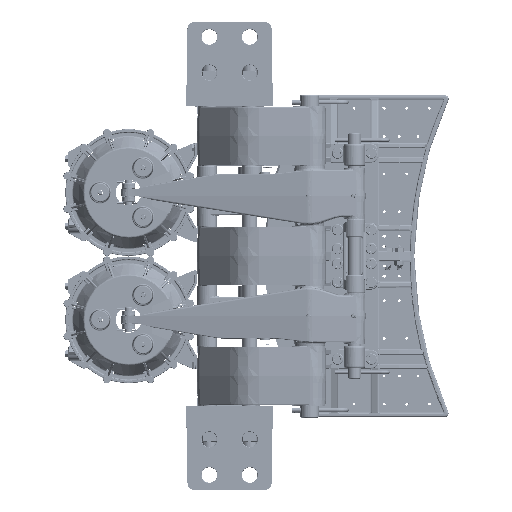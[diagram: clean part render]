
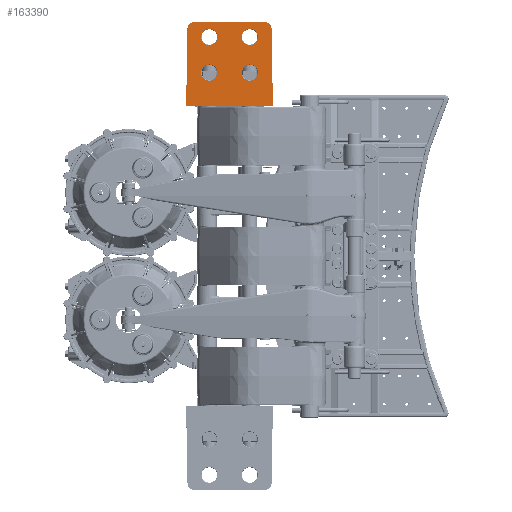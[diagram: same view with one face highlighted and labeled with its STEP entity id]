
A CAD part, top view. The second image highlights one B-rep face of the part: STEP entity #163390.
In plain terms, the highlighted planar face has unit normal (0, 0, 1).
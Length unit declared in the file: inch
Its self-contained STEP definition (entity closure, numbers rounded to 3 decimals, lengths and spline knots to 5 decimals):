
#744 = VECTOR ( 'NONE', #77186, 39.37008 ) ;
#6266 = CARTESIAN_POINT ( 'NONE',  ( -0.98978, 12.79062, 8. ) ) ;
#7405 = ORIENTED_EDGE ( 'NONE', *, *, #299672, .F. ) ;
#9871 = CIRCLE ( 'NONE', #355070, 0.46411 ) ;
#18362 = ORIENTED_EDGE ( 'NONE', *, *, #394919, .T. ) ;
#21302 = VECTOR ( 'NONE', #120166, 39.37008 ) ;
#30032 = CIRCLE ( 'NONE', #367365, 0.54063 ) ;
#31049 = DIRECTION ( 'NONE',  ( -1., 0., 0. ) ) ;
#37381 = DIRECTION ( 'NONE',  ( 0., 1., 0. ) ) ;
#39445 = CARTESIAN_POINT ( 'NONE',  ( 0.00328, 15.625, 8. ) ) ;
#46920 = CIRCLE ( 'NONE', #334765, 0.54063 ) ;
#47461 = VERTEX_POINT ( 'NONE', #279540 ) ;
#54345 = PLANE ( 'NONE',  #403863 ) ;
#57419 = CARTESIAN_POINT ( 'NONE',  ( 0.55973, 10., 8. ) ) ;
#61886 = ORIENTED_EDGE ( 'NONE', *, *, #312333, .F. ) ;
#64780 = DIRECTION ( 'NONE',  ( 0., 1., 0. ) ) ;
#67755 = VECTOR ( 'NONE', #31049, 39.37008 ) ;
#68885 = ORIENTED_EDGE ( 'NONE', *, *, #270783, .F. ) ;
#70743 = CIRCLE ( 'NONE', #103086, 0.46411 ) ;
#74223 = CARTESIAN_POINT ( 'NONE',  ( 0.00328, 15.16089, 8. ) ) ;
#74928 = DIRECTION ( 'NONE',  ( 0., 0., 1. ) ) ;
#77186 = DIRECTION ( 'NONE',  ( 0.017, 1., 0. ) ) ;
#79157 = DIRECTION ( 'NONE',  ( 0., 0., 1. ) ) ;
#79653 = CARTESIAN_POINT ( 'NONE',  ( -5.23928, 9.875, 8. ) ) ;
#80376 = CIRCLE ( 'NONE', #481694, 0.54063 ) ;
#87321 = CARTESIAN_POINT ( 'NONE',  ( -4.68284, 15.625, 8. ) ) ;
#96919 = FACE_BOUND ( 'NONE', #104830, .T. ) ;
#97210 = DIRECTION ( 'NONE',  ( 0., -1., 0. ) ) ;
#97496 = CARTESIAN_POINT ( 'NONE',  ( -5.14687, 15.16899, 8. ) ) ;
#99132 = EDGE_CURVE ( 'NONE', #324096, #230569, #124847, .T. ) ;
#99326 = EDGE_LOOP ( 'NONE', ( #190809, #254459 ) ) ;
#103086 = AXIS2_PLACEMENT_3D ( 'NONE', #243218, #396682, #97210 ) ;
#103321 = EDGE_CURVE ( 'NONE', #396671, #184885, #338940, .T. ) ;
#104450 = ORIENTED_EDGE ( 'NONE', *, *, #345081, .F. ) ;
#104830 = EDGE_LOOP ( 'NONE', ( #7405, #61886 ) ) ;
#109037 = ORIENTED_EDGE ( 'NONE', *, *, #99132, .F. ) ;
#113861 = DIRECTION ( 'NONE',  ( 0., 0., 1. ) ) ;
#120166 = DIRECTION ( 'NONE',  ( 0.017, -1., 0. ) ) ;
#124847 = CIRCLE ( 'NONE', #454215, 0.54063 ) ;
#129832 = CARTESIAN_POINT ( 'NONE',  ( -3.68978, 11.70937, 8. ) ) ;
#132174 = FACE_BOUND ( 'NONE', #187099, .T. ) ;
#135258 = CARTESIAN_POINT ( 'NONE',  ( -0.98978, 14.625, 8. ) ) ;
#151617 = DIRECTION ( 'NONE',  ( 0., 1., 0. ) ) ;
#154428 = EDGE_CURVE ( 'NONE', #245972, #192197, #9871, .T. ) ;
#155551 = AXIS2_PLACEMENT_3D ( 'NONE', #421695, #235378, #388877 ) ;
#163390 = ADVANCED_FACE ( 'NONE', ( #96919, #132174, #474128, #215148, #285596 ), #54345, .F. ) ;
#164810 = ORIENTED_EDGE ( 'NONE', *, *, #154428, .T. ) ;
#170279 = DIRECTION ( 'NONE',  ( 0., 1., 0. ) ) ;
#177985 = DIRECTION ( 'NONE',  ( 0., 0., 1. ) ) ;
#184885 = VERTEX_POINT ( 'NONE', #97496 ) ;
#187099 = EDGE_LOOP ( 'NONE', ( #268441, #104450 ) ) ;
#190809 = ORIENTED_EDGE ( 'NONE', *, *, #256637, .F. ) ;
#192197 = VERTEX_POINT ( 'NONE', #39445 ) ;
#192640 = DIRECTION ( 'NONE',  ( 0., 1., 0. ) ) ;
#194476 = CARTESIAN_POINT ( 'NONE',  ( 0.55755, 10., 8. ) ) ;
#211644 = DIRECTION ( 'NONE',  ( 0., 1., 0. ) ) ;
#215148 = FACE_OUTER_BOUND ( 'NONE', #370671, .T. ) ;
#219129 = EDGE_CURVE ( 'NONE', #230569, #324096, #380865, .T. ) ;
#221608 = AXIS2_PLACEMENT_3D ( 'NONE', #250759, #363962, #170279 ) ;
#230569 = VERTEX_POINT ( 'NONE', #435549 ) ;
#235378 = DIRECTION ( 'NONE',  ( 0., 0., 1. ) ) ;
#237541 = DIRECTION ( 'NONE',  ( 0., -1., 0. ) ) ;
#240050 = VERTEX_POINT ( 'NONE', #194476 ) ;
#240143 = CIRCLE ( 'NONE', #416970, 0.54063 ) ;
#243218 = CARTESIAN_POINT ( 'NONE',  ( -4.68284, 15.16089, 8. ) ) ;
#245972 = VERTEX_POINT ( 'NONE', #270179 ) ;
#250508 = VERTEX_POINT ( 'NONE', #348677 ) ;
#250759 = CARTESIAN_POINT ( 'NONE',  ( -3.68978, 14.625, 8. ) ) ;
#252208 = AXIS2_PLACEMENT_3D ( 'NONE', #135258, #177985, #64780 ) ;
#254459 = ORIENTED_EDGE ( 'NONE', *, *, #321295, .F. ) ;
#256637 = EDGE_CURVE ( 'NONE', #340729, #415088, #492927, .T. ) ;
#258880 = ORIENTED_EDGE ( 'NONE', *, *, #430259, .T. ) ;
#266177 = DIRECTION ( 'NONE',  ( 0., 1., 0. ) ) ;
#268441 = ORIENTED_EDGE ( 'NONE', *, *, #312857, .F. ) ;
#269821 = VERTEX_POINT ( 'NONE', #87321 ) ;
#270179 = CARTESIAN_POINT ( 'NONE',  ( 0.46732, 15.16899, 8. ) ) ;
#270783 = EDGE_CURVE ( 'NONE', #245972, #240050, #424734, .T. ) ;
#270808 = CARTESIAN_POINT ( 'NONE',  ( -3.68978, 15.16562, 8. ) ) ;
#279540 = CARTESIAN_POINT ( 'NONE',  ( -3.68978, 14.08437, 8. ) ) ;
#285596 = FACE_BOUND ( 'NONE', #396471, .T. ) ;
#291224 = DIRECTION ( 'NONE',  ( -1., 0., 0. ) ) ;
#296166 = LINE ( 'NONE', #57419, #458368 ) ;
#298048 = DIRECTION ( 'NONE',  ( 0., -1., 0. ) ) ;
#299672 = EDGE_CURVE ( 'NONE', #424642, #47461, #309966, .T. ) ;
#300822 = DIRECTION ( 'NONE',  ( 0., 0., 1. ) ) ;
#304975 = LINE ( 'NONE', #453426, #67755 ) ;
#309966 = CIRCLE ( 'NONE', #221608, 0.54063 ) ;
#312333 = EDGE_CURVE ( 'NONE', #47461, #424642, #240143, .T. ) ;
#312857 = EDGE_CURVE ( 'NONE', #250508, #490504, #80376, .T. ) ;
#321295 = EDGE_CURVE ( 'NONE', #415088, #340729, #30032, .T. ) ;
#324096 = VERTEX_POINT ( 'NONE', #416080 ) ;
#334765 = AXIS2_PLACEMENT_3D ( 'NONE', #497397, #346604, #266177 ) ;
#334824 = DIRECTION ( 'NONE',  ( 0., 0., 1. ) ) ;
#338940 = LINE ( 'NONE', #79653, #744 ) ;
#340729 = VERTEX_POINT ( 'NONE', #6266 ) ;
#342580 = ORIENTED_EDGE ( 'NONE', *, *, #219129, .F. ) ;
#345081 = EDGE_CURVE ( 'NONE', #490504, #250508, #46920, .T. ) ;
#346604 = DIRECTION ( 'NONE',  ( 0., 0., 1. ) ) ;
#348677 = CARTESIAN_POINT ( 'NONE',  ( -3.68978, 12.79062, 8. ) ) ;
#355070 = AXIS2_PLACEMENT_3D ( 'NONE', #74223, #79157, #237541 ) ;
#363962 = DIRECTION ( 'NONE',  ( 0., 0., 1. ) ) ;
#365629 = CARTESIAN_POINT ( 'NONE',  ( -0.98978, 11.70937, 8. ) ) ;
#367365 = AXIS2_PLACEMENT_3D ( 'NONE', #494308, #300822, #192640 ) ;
#370671 = EDGE_LOOP ( 'NONE', ( #433159, #68885, #164810, #258880, #18362, #441744 ) ) ;
#373589 = CARTESIAN_POINT ( 'NONE',  ( 0.55973, 15.625, 8. ) ) ;
#380865 = CIRCLE ( 'NONE', #252208, 0.54063 ) ;
#388877 = DIRECTION ( 'NONE',  ( 0., 1., 0. ) ) ;
#394919 = EDGE_CURVE ( 'NONE', #269821, #184885, #70743, .T. ) ;
#396471 = EDGE_LOOP ( 'NONE', ( #109037, #342580 ) ) ;
#396671 = VERTEX_POINT ( 'NONE', #417542 ) ;
#396682 = DIRECTION ( 'NONE',  ( 0., 0., 1. ) ) ;
#403863 = AXIS2_PLACEMENT_3D ( 'NONE', #373589, #408865, #298048 ) ;
#408865 = DIRECTION ( 'NONE',  ( 0., 0., -1. ) ) ;
#412805 = CARTESIAN_POINT ( 'NONE',  ( -0.98978, 14.625, 8. ) ) ;
#415088 = VERTEX_POINT ( 'NONE', #365629 ) ;
#416080 = CARTESIAN_POINT ( 'NONE',  ( -0.98978, 15.16562, 8. ) ) ;
#416970 = AXIS2_PLACEMENT_3D ( 'NONE', #418376, #113861, #151617 ) ;
#417174 = CARTESIAN_POINT ( 'NONE',  ( -3.68978, 12.25, 8. ) ) ;
#417542 = CARTESIAN_POINT ( 'NONE',  ( -5.2371, 10., 8. ) ) ;
#418376 = CARTESIAN_POINT ( 'NONE',  ( -3.68978, 14.625, 8. ) ) ;
#421695 = CARTESIAN_POINT ( 'NONE',  ( -0.98978, 12.25, 8. ) ) ;
#424642 = VERTEX_POINT ( 'NONE', #270808 ) ;
#424734 = LINE ( 'NONE', #464764, #21302 ) ;
#430259 = EDGE_CURVE ( 'NONE', #192197, #269821, #304975, .T. ) ;
#433159 = ORIENTED_EDGE ( 'NONE', *, *, #458568, .F. ) ;
#435549 = CARTESIAN_POINT ( 'NONE',  ( -0.98978, 14.08437, 8. ) ) ;
#441744 = ORIENTED_EDGE ( 'NONE', *, *, #103321, .F. ) ;
#453426 = CARTESIAN_POINT ( 'NONE',  ( 0.55973, 15.625, 8. ) ) ;
#454215 = AXIS2_PLACEMENT_3D ( 'NONE', #412805, #334824, #211644 ) ;
#458368 = VECTOR ( 'NONE', #291224, 39.37008 ) ;
#458568 = EDGE_CURVE ( 'NONE', #240050, #396671, #296166, .T. ) ;
#464764 = CARTESIAN_POINT ( 'NONE',  ( 0.55973, 9.875, 8. ) ) ;
#474128 = FACE_BOUND ( 'NONE', #99326, .T. ) ;
#481694 = AXIS2_PLACEMENT_3D ( 'NONE', #417174, #74928, #37381 ) ;
#490504 = VERTEX_POINT ( 'NONE', #129832 ) ;
#492927 = CIRCLE ( 'NONE', #155551, 0.54063 ) ;
#494308 = CARTESIAN_POINT ( 'NONE',  ( -0.98978, 12.25, 8. ) ) ;
#497397 = CARTESIAN_POINT ( 'NONE',  ( -3.68978, 12.25, 8. ) ) ;
